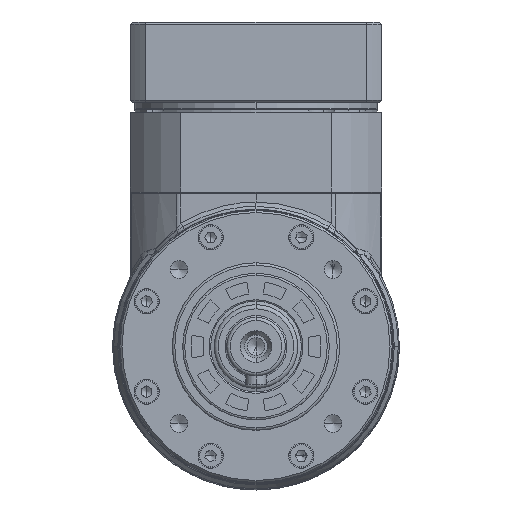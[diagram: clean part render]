
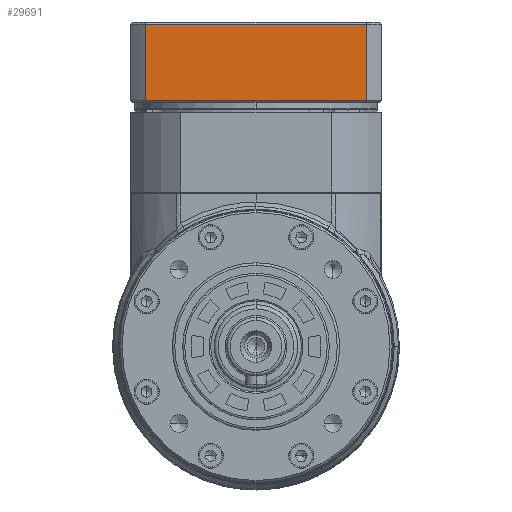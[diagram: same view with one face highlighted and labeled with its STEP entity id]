
A CAD part, left-side view. The second image highlights one B-rep face of the part: STEP entity #29691.
In plain terms, the highlighted planar face has unit normal (-1, 0, 0).
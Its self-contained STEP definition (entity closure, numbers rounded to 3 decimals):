
#3825 = CARTESIAN_POINT ( 'NONE',  ( -66.465, -26.92, 111.631 ) ) ;
#4192 = CARTESIAN_POINT ( 'NONE',  ( -66.465, -0.462, 111.631 ) ) ;
#5497 = DIRECTION ( 'NONE',  ( -1., 0., 0. ) ) ;
#15312 = LINE ( 'NONE', #28025, #84549 ) ;
#15669 = CARTESIAN_POINT ( 'NONE',  ( -66.465, -0.462, 54.331 ) ) ;
#15922 = VERTEX_POINT ( 'NONE', #60634 ) ;
#21278 = ORIENTED_EDGE ( 'NONE', *, *, #31738, .T. ) ;
#23587 = VERTEX_POINT ( 'NONE', #76501 ) ;
#27510 = EDGE_CURVE ( 'NONE', #81489, #15922, #65665, .T. ) ;
#27626 = PLANE ( 'NONE',  #55505 ) ;
#28025 = CARTESIAN_POINT ( 'NONE',  ( -66.465, -53.377, 54.331 ) ) ;
#28492 = VECTOR ( 'NONE', #72701, 1000. ) ;
#29200 = VECTOR ( 'NONE', #75934, 1000. ) ;
#29691 = ADVANCED_FACE ( 'NONE', ( #50074 ), #27626, .T. ) ;
#31738 = EDGE_CURVE ( 'NONE', #81489, #23587, #60879, .T. ) ;
#33093 = DIRECTION ( 'NONE',  ( 0., 0., 1. ) ) ;
#33545 = ORIENTED_EDGE ( 'NONE', *, *, #27510, .F. ) ;
#36944 = ORIENTED_EDGE ( 'NONE', *, *, #54433, .T. ) ;
#39752 = VECTOR ( 'NONE', #45155, 1000. ) ;
#44911 = EDGE_LOOP ( 'NONE', ( #21278, #55669, #36944, #33545 ) ) ;
#45155 = DIRECTION ( 'NONE',  ( 0., 0., 1. ) ) ;
#48163 = CARTESIAN_POINT ( 'NONE',  ( -66.465, -26.92, 129.831 ) ) ;
#49240 = DIRECTION ( 'NONE',  ( 0., 0., 1. ) ) ;
#50074 = FACE_OUTER_BOUND ( 'NONE', #44911, .T. ) ;
#54433 = EDGE_CURVE ( 'NONE', #79779, #15922, #84097, .T. ) ;
#55505 = AXIS2_PLACEMENT_3D ( 'NONE', #15669, #5497, #33093 ) ;
#55669 = ORIENTED_EDGE ( 'NONE', *, *, #56745, .T. ) ;
#56745 = EDGE_CURVE ( 'NONE', #23587, #79779, #15312, .T. ) ;
#58382 = CARTESIAN_POINT ( 'NONE',  ( -66.465, -0.462, 105.331 ) ) ;
#60634 = CARTESIAN_POINT ( 'NONE',  ( -66.465, -0.462, 129.831 ) ) ;
#60879 = LINE ( 'NONE', #3825, #28492 ) ;
#65665 = LINE ( 'NONE', #58382, #39752 ) ;
#70344 = CARTESIAN_POINT ( 'NONE',  ( -66.465, -53.377, 129.831 ) ) ;
#72701 = DIRECTION ( 'NONE',  ( 0., -1., 0. ) ) ;
#75934 = DIRECTION ( 'NONE',  ( 0., 1., 0. ) ) ;
#76501 = CARTESIAN_POINT ( 'NONE',  ( -66.465, -53.377, 111.631 ) ) ;
#79779 = VERTEX_POINT ( 'NONE', #70344 ) ;
#81489 = VERTEX_POINT ( 'NONE', #4192 ) ;
#84097 = LINE ( 'NONE', #48163, #29200 ) ;
#84549 = VECTOR ( 'NONE', #49240, 1000. ) ;
